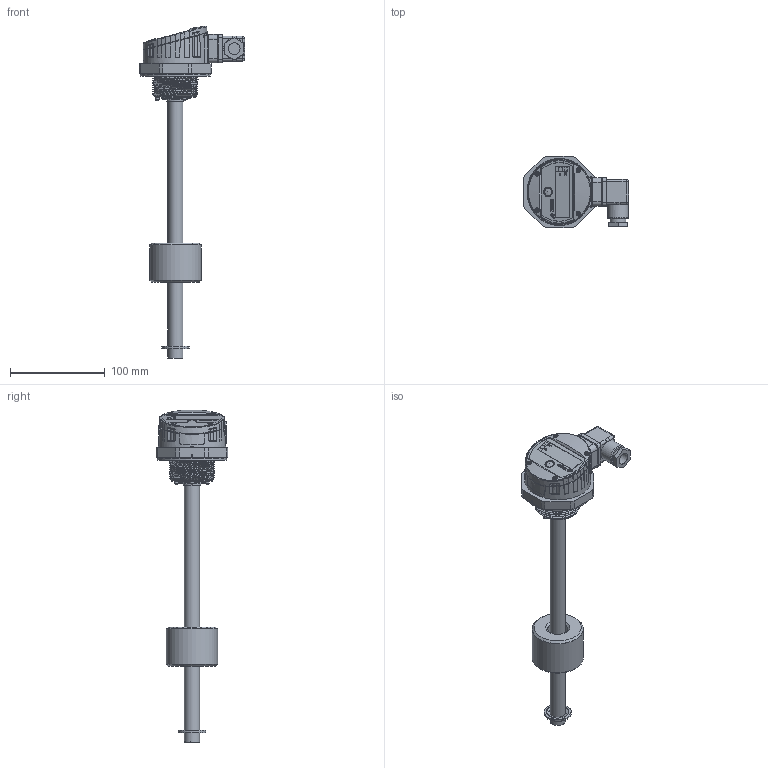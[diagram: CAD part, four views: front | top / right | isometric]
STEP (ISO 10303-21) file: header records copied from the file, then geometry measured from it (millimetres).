
FILE_DESCRIPTION(/* description */ (''),/* implementation_level */ '2;1');
FILE_NAME(/* name */ '2..2_A_1-LVL-N...stp',/* time_stamp */ '2019-12-13T09:04:22+01:00',/* author */ (''),/* organization */ (''),/* preprocessor_version */ 'ST-DEVELOPER v16',/* originating_system */ 'SIEMENS PLM Software NX 11.0',/* authorisation */ '');
FILE_SCHEMA (('AUTOMOTIVE_DESIGN { 1 0 10303 214 3 1 1 1 }'));
Products named in the file (1): pr1m01944044fuod
Bounding box: 111.1 x 76 x 350.98 mm (x, y, z)
Volume: 305206.1 mm3; surface area: 117574.2 mm2
Topology: 32 solids, 33 shells, 2452 faces, 6473 edges, 4206 vertices
Faces by surface type: plane 991, bspline 461, cylinder 413, extrusion 321, cone 167, torus 63, sphere 36
Full cylindrical faces by diameter (mm): 1.158 x1, 2 x6, 2.05 x32, 2.1 x6, 2.26 x4, 2.5 x2, 2.55 x4, 2.6 x2, 2.7 x10, 3.2 x4, 3.45 x2, 3.65 x4, 4.5 x4, 5.44 x1, 5.8 x4, 6 x2, 6.5 x1, 7 x1, 8.64 x1, 9 x1, 10 x1, 12.5 x1, 15.9 x1, 16 x3, 16.6 x1, 18 x1, 20.6 x1, 22 x1, 23.9 x1, 26.3 x2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
Entity records: 118184 total; most frequent: CARTESIAN_POINT 61362, ORIENTED_EDGE 12136, DIRECTION 8878, EDGE_CURVE 6068, VERTEX_POINT 4037, AXIS2_PLACEMENT_3D 3233, EDGE_LOOP 2793, B_SPLINE_CURVE_WITH_KNOTS 2692
